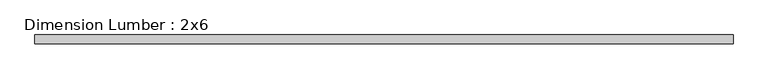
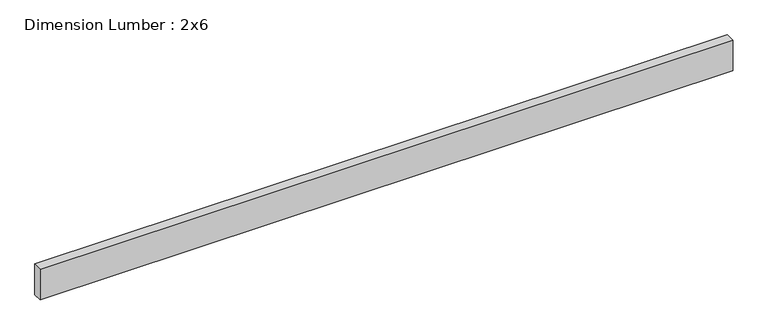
"""IFC4 building model written with IfcOpenShell, lengths in millimetres: beam geometry, Dimension Lumber : 2x6."""

from ifc_helpers import new_model, si_unit, frame, origin, place, context, project, spatial, polyline, outline, extrude, source, transform, mapped, element, save


def dimension_lumber_2x6_a4f8a1a7(model_context):
    return source(origin(), model_context, "Body", "SweptSolid", [
        extrude(outline(polyline([(1485.3137095, 19.05), (1485.3137095, -19.05), (-1485.3137095, -19.05), (-1485.3137095, 19.05), (1485.3137095, 19.05)])), frame((0.0, 0.0, -69.85), z_axis=(0.0, 0.0, 1.0), x_axis=(1.0, 0.0, 0.0)), (0.0, 0.0, 1.0), 139.7),
    ])


if __name__ == "__main__":
    model = new_model("IFC4")
    model_context = context("Model", 3, world=origin())
    ifc_project = project(units=[si_unit("LENGTHUNIT", "METRE", prefix="MILLI")], contexts=[model_context])
    site = spatial("IfcSite", under=ifc_project)
    building = spatial("IfcBuilding", under=site)
    placement = place(None, origin())
    dimension_lumber_2x6_shape = dimension_lumber_2x6_a4f8a1a7(model_context)
    element("IfcBeam", 1, ObjectType="Dimension Lumber : 2x6", at=placement, inside=building, context=model_context, shape_type="MappedRepresentation", body=[
        mapped(dimension_lumber_2x6_shape, transform((0.0, 0.0, 0.0), x_axis=(1.0, 0.0, 0.0), y_axis=(0.0, 1.0, 0.0), z_axis=(0.0, 0.0, 1.0))),
    ])
    save(model, "model.ifc")
